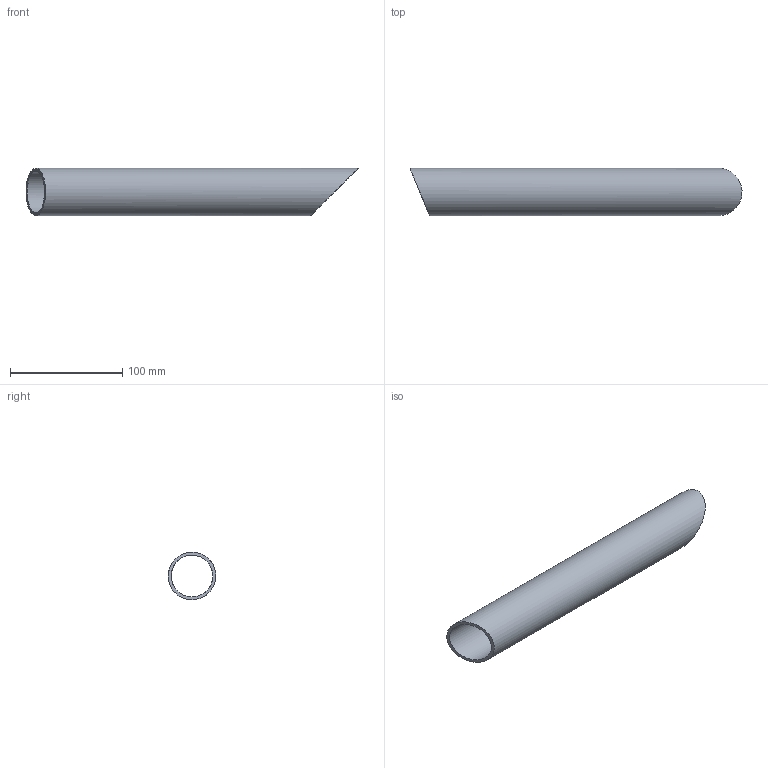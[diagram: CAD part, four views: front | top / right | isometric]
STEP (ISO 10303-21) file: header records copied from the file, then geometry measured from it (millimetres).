
FILE_DESCRIPTION(/* description */ (''),/* implementation_level */ '2;1');
FILE_NAME(/* name */ 'Pos115-Constructie buis 42.4x2.6-S235JRH-2st',/* time_stamp */ '2024-08-06T11:42:42+02:00',/* author */ (''),/* organization */ (''),/* preprocessor_version */ 'ST-DEVELOPER v16.5',/* originating_system */ 'HiCAD 2024 2901.2 Build 361',/* authorisation */ '');
FILE_SCHEMA (('AUTOMOTIVE_DESIGN { 1 0 10303 214 1 1 1 1 }'));
Length unit declared in the file: millimetre
Products named in the file (1): Pos115-Constructie buis 42.4x2.6-S235JRH-2st
Bounding box: 296.18 x 42.39 x 42.38 mm (x, y, z)
Volume: 86545.6 mm3; surface area: 67385.1 mm2
Topology: 1 solids, 1 shells, 4 faces, 8 edges, 6 vertices
Faces by surface type: cylinder 2, plane 2
Full cylindrical faces by diameter (mm): 37.2 x1, 42.4 x1
Entity records: 146 total; most frequent: DIRECTION 16, CARTESIAN_POINT 12, PRESENTATION_STYLE_ASSIGNMENT 9, COLOUR_RGB 9, DRAUGHTING_PRE_DEFINED_CURVE_FONT 8, CURVE_STYLE 8, OVER_RIDING_STYLED_ITEM 8, ORIENTED_EDGE 8
